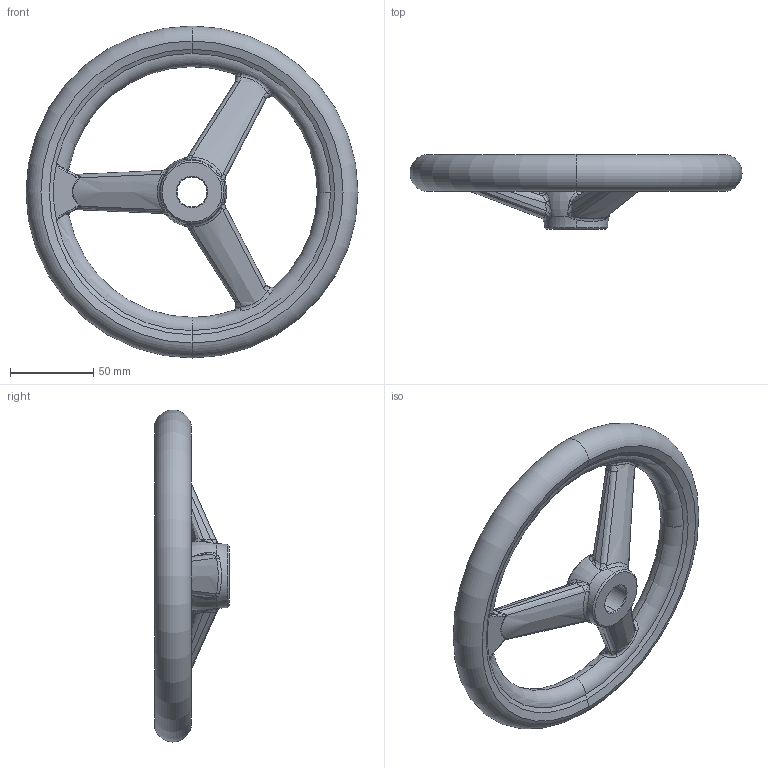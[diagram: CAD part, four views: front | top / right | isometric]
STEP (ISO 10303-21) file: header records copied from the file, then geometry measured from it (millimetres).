
FILE_DESCRIPTION (( 'STEP AP203' ), '1' );
FILE_NAME ('din950_a4_200x18.step', '2010-03-23T09:58:16', ( '_' ), ( '_' ), 'SwSTEP 2.0', 'SolidWorks 2010', '' );
FILE_SCHEMA (( 'CONFIG_CONTROL_DESIGN' ));
Length unit declared in the file: millimetre
Products named in the file (1): din950_a4_200x18
Bounding box: 200 x 45 x 200 mm (x, y, z)
Volume: 292964.1 mm3; surface area: 55781.4 mm2
Topology: 1 solids, 1 shells, 220 faces, 539 edges, 287 vertices
Faces by surface type: bspline 164, torus 22, cone 17, plane 10, cylinder 7
Entity records: 26540 total; most frequent: CARTESIAN_POINT 22470, ORIENTED_EDGE 1022, EDGE_CURVE 511, DIRECTION 511, B_SPLINE_CURVE_WITH_KNOTS 297, VERTEX_POINT 287, AXIS2_PLACEMENT_3D 244, EDGE_LOOP 222
